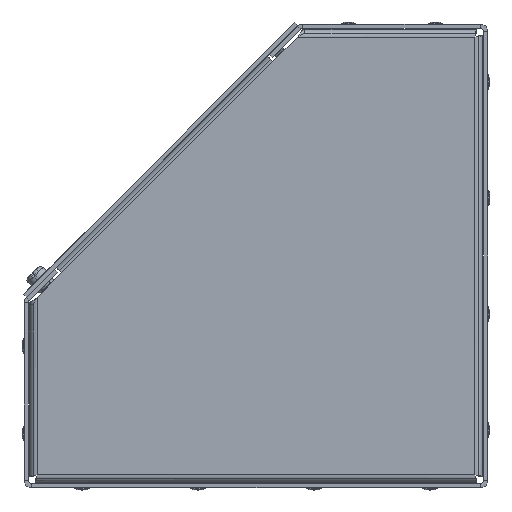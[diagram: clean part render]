
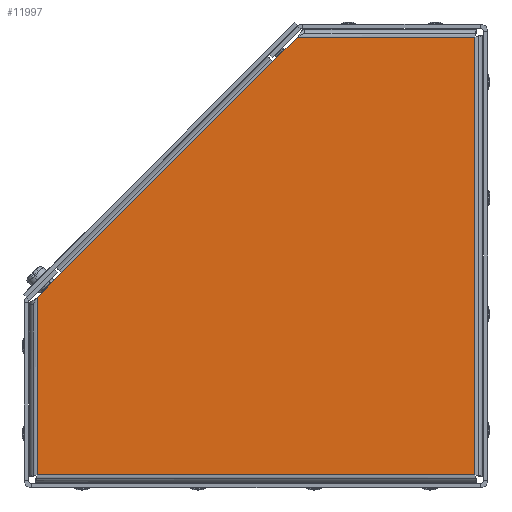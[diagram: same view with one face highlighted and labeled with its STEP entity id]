
A CAD part, left-side view. The second image highlights one B-rep face of the part: STEP entity #11997.
In plain terms, the highlighted planar face has unit normal (-1, 0, 0) as drawn and (1, 0, 0) by its records, which use the part's own axes.
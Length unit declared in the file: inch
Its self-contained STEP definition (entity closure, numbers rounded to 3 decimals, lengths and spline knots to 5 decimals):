
#252 = CARTESIAN_POINT ( 'NONE',  ( 0., 0., 0. ) ) ;
#341 = DIRECTION ( 'NONE',  ( 0., 0., 1. ) ) ;
#656 = CARTESIAN_POINT ( 'NONE',  ( 0., 7.553, -7.553 ) ) ;
#730 = CARTESIAN_POINT ( 'NONE',  ( 0., 3.48926, -0.42426 ) ) ;
#1023 = EDGE_CURVE ( 'NONE', #4136, #8536, #8471, .T. ) ;
#1084 = CARTESIAN_POINT ( 'NONE',  ( 0., 0., -7.553 ) ) ;
#1974 = DIRECTION ( 'NONE',  ( 0., -1., 0. ) ) ;
#2023 = DIRECTION ( 'NONE',  ( 0., -0.707, 0.707 ) ) ;
#2045 = CARTESIAN_POINT ( 'NONE',  ( 0., 3.065, 0. ) ) ;
#2091 = CARTESIAN_POINT ( 'NONE',  ( 0., 0., -7.553 ) ) ;
#2522 = EDGE_CURVE ( 'NONE', #13637, #4136, #6483, .T. ) ;
#3663 = ORIENTED_EDGE ( 'NONE', *, *, #7379, .T. ) ;
#4088 = EDGE_CURVE ( 'NONE', #15557, #17779, #17712, .T. ) ;
#4136 = VERTEX_POINT ( 'NONE', #2091 ) ;
#4305 = LINE ( 'NONE', #2045, #7885 ) ;
#4817 = DIRECTION ( 'NONE',  ( 0., 0., -1. ) ) ;
#5915 = VERTEX_POINT ( 'NONE', #8206 ) ;
#6483 = LINE ( 'NONE', #12809, #7448 ) ;
#6891 = DIRECTION ( 'NONE',  ( 0., -0.707, 0.707 ) ) ;
#7343 = VERTEX_POINT ( 'NONE', #730 ) ;
#7379 = EDGE_CURVE ( 'NONE', #7343, #5915, #11800, .T. ) ;
#7405 = DIRECTION ( 'NONE',  ( 0., -0.707, 0.707 ) ) ;
#7448 = VECTOR ( 'NONE', #17766, 39.37008 ) ;
#7513 = VECTOR ( 'NONE', #2023, 39.37008 ) ;
#7885 = VECTOR ( 'NONE', #1974, 39.37008 ) ;
#8036 = LINE ( 'NONE', #8957, #8520 ) ;
#8206 = CARTESIAN_POINT ( 'NONE',  ( 0., 3.065, 0. ) ) ;
#8471 = LINE ( 'NONE', #1084, #18629 ) ;
#8520 = VECTOR ( 'NONE', #7405, 39.37008 ) ;
#8536 = VERTEX_POINT ( 'NONE', #656 ) ;
#8957 = CARTESIAN_POINT ( 'NONE',  ( 0., 7.12874, -4.06374 ) ) ;
#9307 = PLANE ( 'NONE',  #10347 ) ;
#9700 = FACE_OUTER_BOUND ( 'NONE', #11296, .T. ) ;
#10154 = EDGE_CURVE ( 'NONE', #5915, #13637, #4305, .T. ) ;
#10347 = AXIS2_PLACEMENT_3D ( 'NONE', #252, #13929, #4817 ) ;
#10516 = VECTOR ( 'NONE', #341, 39.37008 ) ;
#11128 = CARTESIAN_POINT ( 'NONE',  ( 0., 7.553, -4.488 ) ) ;
#11296 = EDGE_LOOP ( 'NONE', ( #17426, #13567, #13948, #19242, #18904, #13158, #3663 ) ) ;
#11767 = CARTESIAN_POINT ( 'NONE',  ( 0., 7.12874, -4.06374 ) ) ;
#11800 = LINE ( 'NONE', #17503, #12262 ) ;
#11927 = LINE ( 'NONE', #12477, #10516 ) ;
#11997 = ADVANCED_FACE ( 'NONE', ( #9700 ), #9307, .T. ) ;
#12262 = VECTOR ( 'NONE', #6891, 39.37008 ) ;
#12477 = CARTESIAN_POINT ( 'NONE',  ( 0., 7.553, -7.553 ) ) ;
#12809 = CARTESIAN_POINT ( 'NONE',  ( 0., 0., 0. ) ) ;
#13158 = ORIENTED_EDGE ( 'NONE', *, *, #18922, .T. ) ;
#13567 = ORIENTED_EDGE ( 'NONE', *, *, #2522, .T. ) ;
#13637 = VERTEX_POINT ( 'NONE', #16395 ) ;
#13929 = DIRECTION ( 'NONE',  ( 1., 0., 0. ) ) ;
#13948 = ORIENTED_EDGE ( 'NONE', *, *, #1023, .T. ) ;
#15109 = EDGE_CURVE ( 'NONE', #8536, #15557, #11927, .T. ) ;
#15557 = VERTEX_POINT ( 'NONE', #18240 ) ;
#15878 = DIRECTION ( 'NONE',  ( 0., 1., 0. ) ) ;
#16395 = CARTESIAN_POINT ( 'NONE',  ( 0., 0., 0. ) ) ;
#17426 = ORIENTED_EDGE ( 'NONE', *, *, #10154, .T. ) ;
#17503 = CARTESIAN_POINT ( 'NONE',  ( 0., 7.553, -4.488 ) ) ;
#17712 = LINE ( 'NONE', #11128, #7513 ) ;
#17766 = DIRECTION ( 'NONE',  ( 0., 0., -1. ) ) ;
#17779 = VERTEX_POINT ( 'NONE', #11767 ) ;
#18240 = CARTESIAN_POINT ( 'NONE',  ( 0., 7.553, -4.488 ) ) ;
#18629 = VECTOR ( 'NONE', #15878, 39.37008 ) ;
#18904 = ORIENTED_EDGE ( 'NONE', *, *, #4088, .T. ) ;
#18922 = EDGE_CURVE ( 'NONE', #17779, #7343, #8036, .T. ) ;
#19242 = ORIENTED_EDGE ( 'NONE', *, *, #15109, .T. ) ;
